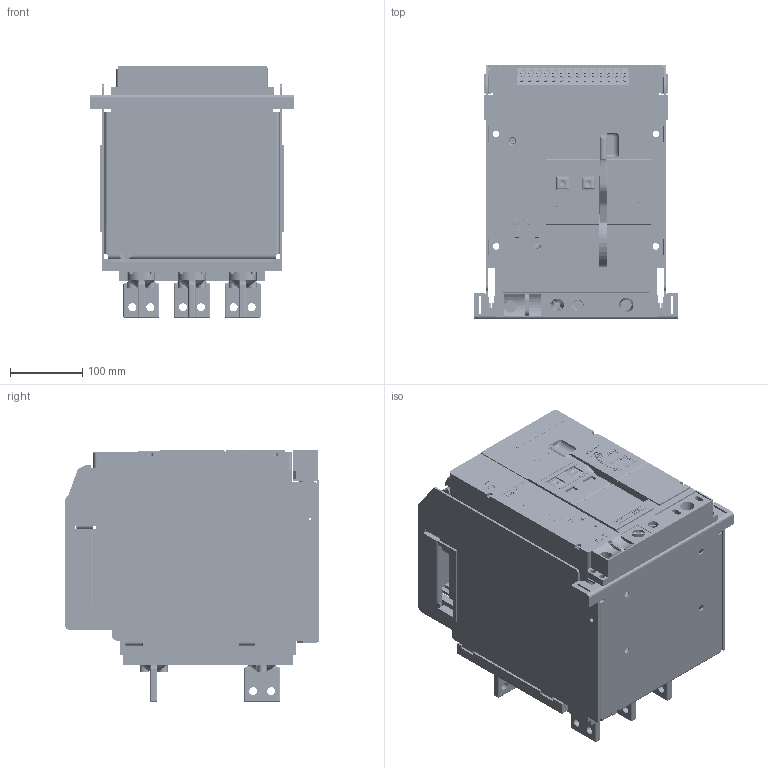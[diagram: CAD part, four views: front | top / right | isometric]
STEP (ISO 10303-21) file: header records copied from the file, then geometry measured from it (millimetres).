
FILE_DESCRIPTION((''),'2;1');
FILE_NAME('NA8-1600-3P-D-400A-800A-HV_ASM','2021-11-05T16:29:14',('lcc'),(''),'CREO PARAMETRIC BY PTC INC, 2020044','CREO PARAMETRIC BY PTC INC, 2020044','');
FILE_SCHEMA(('CONFIG_CONTROL_DESIGN','SHAPE_APPEARANCE_LAYERS_GROUPS'));
Products named in the file (47): 8050A0306004T; 8050A0305001T; 8050A0305002T; 8ZTD-300-462; 5300A0203002V1; 8300A0203002; 16-3P-DIJIA01; 8ZTD-060-205; 8ZTD-321-089; 8ZTD-253-775; 8ZTD-253-776; 8ZTD-281-1000; 8282A0820014; 8ZTD-253-577; 8ZTD-235-356; 5ZTD-302-018_ASM; 8ZTD_210_353; 5ZTD_253_424_1; 5ZTD_253_424_2; 5ZTD_253_424_3; 5ZTD_253_424_4; 5ZTD_253_424_5; 5ZTD_253_424_6; 5ZTD_253_424_7; 5ZTD_253_424_8; 5ZTD_253_424_9; 5ZTD_253_424_10; 5ZTD_253_424_ASM; 8ZTD-253-424_ASM; 8ZTD-064-138; 8ZTD-024-689; 5ZTD-558-467_ASM; 8ZTD-860-511; 5ZTD-558-466_ASM; 8-441-081N; 8-860-349; 8-141-125; 8-040-432; 8-004-030; 8-320-094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
Assembly tree (76 placements, depth 5):
  NA8-1600-3P-D-400A-800A-HV_ASM
    NA8-1600-3P-DO_ASM
      8050A0306004T
      8050A0305001T
      8050A0305002T
      8ZTD-300-462
      5300A0203002V1
      8300A0203002
      16-3P-DIJIA01
      5ZTD-302-018_ASM
        8ZTD-060-205
        8ZTD-321-089
        8ZTD-253-775
        8ZTD-253-776
        8ZTD-281-1000  x2
        8282A0820014
        8ZTD-253-577
        8ZTD-235-356
      8ZTD-253-424_ASM
        5ZTD_253_424_ASM
          8ZTD_210_353
          5ZTD_253_424_1
          5ZTD_253_424_2
          5ZTD_253_424_3
          5ZTD_253_424_4
          5ZTD_253_424_5
          5ZTD_253_424_6
          5ZTD_253_424_7
          5ZTD_253_424_8
          5ZTD_253_424_9
          5ZTD_253_424_10
      5ZTD-558-466_ASM
        8ZTD-064-138
        5ZTD-558-467_ASM  x14
          8ZTD-024-689
        8ZTD-860-511
      8-441-081N
      8-860-349
      8-141-125
      8-040-432
      8-004-030
      8-320-094
      8-860-KZQ
    8580A0412005  x6
    QNKJ0200012_ASM  x12
      GBT70_1-M8X20
      GBT93-8
Bounding box: 282 x 351 x 348.5 mm (x, y, z)
Volume: 6677521.5 mm3; surface area: 1795166.1 mm2
Topology: 80 solids, 170 shells, 9356 faces, 25426 edges, 16662 vertices
Faces by surface type: plane 6623, cylinder 1472, extrusion 790, cone 221, bspline 133, torus 72, sphere 45
Entity records: 326719 total; most frequent: CARTESIAN_POINT 68571, ORIENTED_EDGE 36376, DIRECTION 32008, PRESENTATION_STYLE_ASSIGNMENT 22936, STYLED_ITEM 22795, CURVE_STYLE 18498, EDGE_CURVE 18457, VECTOR 14892
